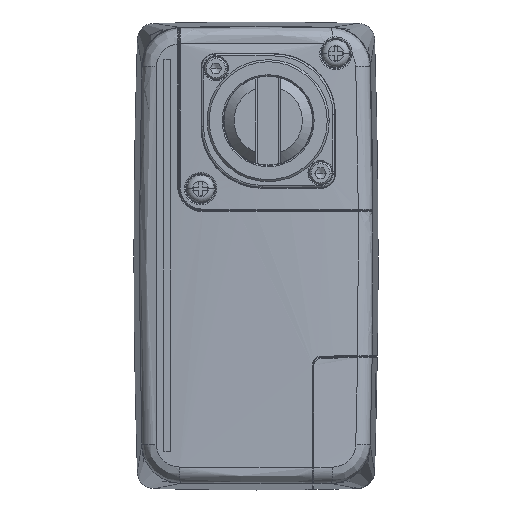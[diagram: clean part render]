
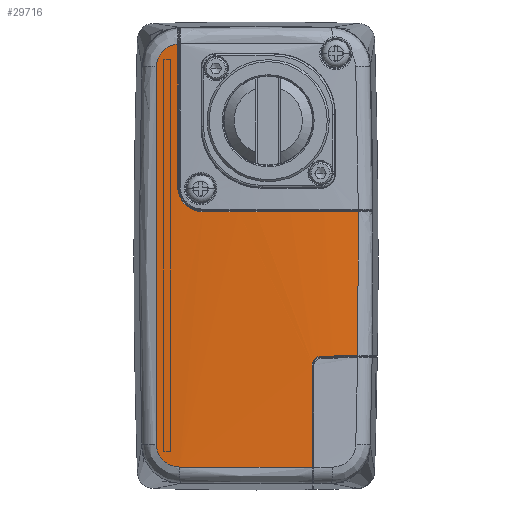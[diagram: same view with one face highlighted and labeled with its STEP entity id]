
A CAD part, top view. The second image highlights one B-rep face of the part: STEP entity #29716.
In plain terms, the highlighted cylindrical face has radius 226 mm (diameter 452 mm), a partial arc.
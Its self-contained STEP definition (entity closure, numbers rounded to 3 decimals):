
#7103=DIRECTION('',(0.,1.,0.));
#7104=VECTOR('',#7103,25.14);
#7105=CARTESIAN_POINT('',(10.812,-69.106,125.078));
#7106=LINE('',#7105,#7104);
#7685=CARTESIAN_POINT('',(21.99,-41.608,124.114));
#8989=CARTESIAN_POINT('',(10.812,-43.965,125.078));
#8990=CARTESIAN_POINT('',(10.817,-43.662,125.077));
#8991=CARTESIAN_POINT('',(10.924,-43.107,125.071));
#8992=CARTESIAN_POINT('',(11.449,-42.34,125.038));
#8993=CARTESIAN_POINT('',(12.109,-41.902,124.995));
#8994=CARTESIAN_POINT('',(12.669,-41.78,124.956));
#8995=CARTESIAN_POINT('',(12.976,-41.766,124.935));
#9002=CARTESIAN_POINT('',(-3.,-6.257,-100.5));
#9003=DIRECTION('',(0.,1.,0.));
#9004=DIRECTION('',(-0.058,0.,0.998));
#9005=AXIS2_PLACEMENT_3D('',#9002,#9003,#9004);
#9007=CARTESIAN_POINT('',(-3.,-6.257,-100.5));
#9008=DIRECTION('',(0.,1.,0.));
#9009=DIRECTION('',(0.,0.,1.));
#9010=AXIS2_PLACEMENT_3D('',#9007,#9008,#9009);
#9012=CARTESIAN_POINT('',(22.142,-6.252,124.097));
#9013=CARTESIAN_POINT('',(22.22,-18.039,124.088));
#9014=CARTESIAN_POINT('',(22.17,-29.822,124.094));
#9015=CARTESIAN_POINT('',(21.99,-41.608,124.114));
#9017=CARTESIAN_POINT('',(21.99,-41.608,124.114));
#9018=CARTESIAN_POINT('',(21.68,-41.62,124.149));
#9019=CARTESIAN_POINT('',(21.064,-41.639,124.216));
#9020=CARTESIAN_POINT('',(20.149,-41.626,124.312));
#9021=CARTESIAN_POINT('',(19.546,-41.645,124.373));
#9022=CARTESIAN_POINT('',(19.246,-41.656,124.402));
#9024=CARTESIAN_POINT('',(19.246,-41.656,124.402));
#9025=CARTESIAN_POINT('',(18.891,-41.671,124.438));
#9026=CARTESIAN_POINT('',(18.174,-41.694,124.507));
#9027=CARTESIAN_POINT('',(17.073,-41.681,124.608));
#9028=CARTESIAN_POINT('',(16.321,-41.698,124.673));
#9029=CARTESIAN_POINT('',(15.941,-41.707,124.705));
#9031=CARTESIAN_POINT('',(15.597,-41.72,124.734));
#9032=CARTESIAN_POINT('',(15.304,-41.731,124.758));
#9033=CARTESIAN_POINT('',(14.719,-41.749,124.805));
#9034=CARTESIAN_POINT('',(13.845,-41.737,124.872));
#9035=CARTESIAN_POINT('',(13.265,-41.755,124.914));
#9036=CARTESIAN_POINT('',(12.976,-41.766,124.935));
#9038=CARTESIAN_POINT('',(10.812,-69.106,125.078));
#9039=CARTESIAN_POINT('',(-0.031,-69.273,
125.742));
#9040=CARTESIAN_POINT('',(-10.928,-69.243,
125.622));
#9041=CARTESIAN_POINT('',(-21.753,-69.017,
124.721));
#9043=CARTESIAN_POINT('',(-21.753,-69.017,
124.721));
#9044=CARTESIAN_POINT('',(-22.482,-68.973,
124.66));
#9045=CARTESIAN_POINT('',(-23.801,-68.732,
124.543));
#9046=CARTESIAN_POINT('',(-25.298,-67.88,
124.399));
#9047=CARTESIAN_POINT('',(-26.523,-66.63,
124.273));
#9048=CARTESIAN_POINT('',(-27.282,-65.156,
124.192));
#9049=CARTESIAN_POINT('',(-27.485,-64.046,
124.17));
#9050=CARTESIAN_POINT('',(-27.509,-63.456,
124.167));
#9052=CARTESIAN_POINT('',(-27.509,-63.456,
124.167));
#9053=CARTESIAN_POINT('',(-28.4,-32.494,
124.07));
#9054=CARTESIAN_POINT('',(-28.4,-1.506,
124.07));
#9055=CARTESIAN_POINT('',(-27.509,29.456,124.167));
#9057=CARTESIAN_POINT('',(-27.509,29.456,124.167));
#9058=CARTESIAN_POINT('',(-27.48,30.047,124.17));
#9059=CARTESIAN_POINT('',(-27.283,31.149,124.192));
#9060=CARTESIAN_POINT('',(-26.559,32.561,124.269));
#9061=CARTESIAN_POINT('',(-25.448,33.75,124.383));
#9062=CARTESIAN_POINT('',(-24.083,34.597,124.516));
#9063=CARTESIAN_POINT('',(-22.912,34.898,124.622));
#9064=CARTESIAN_POINT('',(-22.269,34.986,124.677));
#9071=CARTESIAN_POINT('',(-16.012,-6.255,
125.125));
#9072=CARTESIAN_POINT('',(-16.52,-6.265,
125.096));
#9073=CARTESIAN_POINT('',(-17.528,-6.143,
125.035));
#9074=CARTESIAN_POINT('',(-19.174,-5.486,
124.922));
#9075=CARTESIAN_POINT('',(-20.467,-4.491,
124.825));
#9076=CARTESIAN_POINT('',(-21.491,-3.167,
124.743));
#9077=CARTESIAN_POINT('',(-22.123,-1.651,
124.69));
#9078=CARTESIAN_POINT('',(-22.266,-0.566,
124.677));
#9079=CARTESIAN_POINT('',(-22.269,0.,
124.677));
#9086=DIRECTION('',(0.,1.,0.));
#9087=VECTOR('',#9086,34.986);
#9088=CARTESIAN_POINT('',(-22.269,0.,
124.677));
#9089=LINE('',#9088,#9087);
#11562=CARTESIAN_POINT('',(15.597,-41.72,
124.734));
#11563=CARTESIAN_POINT('',(15.634,-41.717,
124.73));
#11564=CARTESIAN_POINT('',(15.709,-41.712,
124.724));
#11565=CARTESIAN_POINT('',(15.824,-41.715,
124.715));
#11566=CARTESIAN_POINT('',(15.902,-41.71,
124.708));
#11567=CARTESIAN_POINT('',(15.941,-41.707,
124.705));
#16462=VERTEX_POINT('',#7685);
#16463=CARTESIAN_POINT('',(22.142,-6.247,
124.097));
#16465=VERTEX_POINT('',#16463);
#16469=CARTESIAN_POINT('',(-3.,-6.257,
125.5));
#16470=VERTEX_POINT('',#16469);
#16471=CARTESIAN_POINT('',(-16.012,-6.257,
125.125));
#16472=VERTEX_POINT('',#16471);
#16475=VERTEX_POINT('',#9022);
#16476=VERTEX_POINT('',#9029);
#16477=VERTEX_POINT('',#9031);
#16478=VERTEX_POINT('',#9036);
#16479=VERTEX_POINT('',#8989);
#16480=CARTESIAN_POINT('',(10.812,-69.106,
125.078));
#16481=VERTEX_POINT('',#16480);
#16482=VERTEX_POINT('',#9041);
#16483=VERTEX_POINT('',#9050);
#16484=VERTEX_POINT('',#9055);
#16485=VERTEX_POINT('',#9064);
#16684=VERTEX_POINT('',#9079);
#29682=CARTESIAN_POINT('',(-3.,-71.298,-100.5));
#29683=DIRECTION('',(0.,1.,0.));
#29684=DIRECTION('',(1.,0.,0.));
#29685=AXIS2_PLACEMENT_3D('',#29682,#29683,#29684);
#29686=CYLINDRICAL_SURFACE('',#29685,226.);
#29688=ORIENTED_EDGE('',*,*,#29687,.T.);
#29690=ORIENTED_EDGE('',*,*,#29689,.T.);
#29691=ORIENTED_EDGE('',*,*,#27451,.T.);
#29693=ORIENTED_EDGE('',*,*,#29692,.T.);
#29695=ORIENTED_EDGE('',*,*,#29694,.T.);
#29697=ORIENTED_EDGE('',*,*,#29696,.F.);
#29699=ORIENTED_EDGE('',*,*,#29698,.T.);
#29700=ORIENTED_EDGE('',*,*,#29673,.F.);
#29701=ORIENTED_EDGE('',*,*,#26808,.F.);
#29703=ORIENTED_EDGE('',*,*,#29702,.T.);
#29705=ORIENTED_EDGE('',*,*,#29704,.T.);
#29707=ORIENTED_EDGE('',*,*,#29706,.T.);
#29709=ORIENTED_EDGE('',*,*,#29708,.T.);
#29711=ORIENTED_EDGE('',*,*,#29710,.F.);
#29713=ORIENTED_EDGE('',*,*,#29712,.F.);
#29714=EDGE_LOOP('',(#29688,#29690,#29691,#29693,#29695,#29697,#29699,#29700,
#29701,#29703,#29705,#29707,#29709,#29711,#29713));
#29715=FACE_OUTER_BOUND('',#29714,.F.);
#29716=ADVANCED_FACE('',(#29715),#29686,.T.);
#8996=B_SPLINE_CURVE_WITH_KNOTS('',3,(#8989,#8990,#8991,#8992,#8993,#8994,
#8995),.UNSPECIFIED.,.F.,.F.,(4,1,1,1,4),(0.,0.25,0.5,0.75,1.),
.UNSPECIFIED.);
#9006=CIRCLE('',#9005,226.);
#9011=CIRCLE('',#9010,226.);
#9016=B_SPLINE_CURVE_WITH_KNOTS('',3,(#9012,#9013,#9014,#9015),.UNSPECIFIED.,
.F.,.F.,(4,4),(0.,1.),.UNSPECIFIED.);
#9023=B_SPLINE_CURVE_WITH_KNOTS('',3,(#9017,#9018,#9019,#9020,#9021,#9022),
.UNSPECIFIED.,.F.,.F.,(4,1,1,4),(0.,0.333,0.667,1.),
.UNSPECIFIED.);
#9030=B_SPLINE_CURVE_WITH_KNOTS('',3,(#9024,#9025,#9026,#9027,#9028,#9029),
.UNSPECIFIED.,.F.,.F.,(4,1,1,4),(0.,0.333,0.667,1.),
.UNSPECIFIED.);
#9037=B_SPLINE_CURVE_WITH_KNOTS('',3,(#9031,#9032,#9033,#9034,#9035,#9036),
.UNSPECIFIED.,.F.,.F.,(4,1,1,4),(0.,0.333,0.667,1.),
.UNSPECIFIED.);
#9042=B_SPLINE_CURVE_WITH_KNOTS('',3,(#9038,#9039,#9040,#9041),.UNSPECIFIED.,
.F.,.F.,(4,4),(0.,1.),.UNSPECIFIED.);
#9051=B_SPLINE_CURVE_WITH_KNOTS('',3,(#9043,#9044,#9045,#9046,#9047,#9048,#9049,
#9050),.UNSPECIFIED.,.F.,.F.,(4,1,1,1,1,4),(0.,0.2,0.4,0.6,0.8,1.),
.UNSPECIFIED.);
#9056=B_SPLINE_CURVE_WITH_KNOTS('',3,(#9052,#9053,#9054,#9055),.UNSPECIFIED.,
.F.,.F.,(4,4),(0.,1.),.UNSPECIFIED.);
#9065=B_SPLINE_CURVE_WITH_KNOTS('',3,(#9057,#9058,#9059,#9060,#9061,#9062,#9063,
#9064),.UNSPECIFIED.,.F.,.F.,(4,1,1,1,1,4),(0.,0.2,0.4,0.6,0.8,1.),
.UNSPECIFIED.);
#9080=B_SPLINE_CURVE_WITH_KNOTS('',3,(#9071,#9072,#9073,#9074,#9075,#9076,#9077,
#9078,#9079),.UNSPECIFIED.,.F.,.F.,(4,1,1,1,1,1,4),(0.,0.167,
0.333,0.5,0.667,0.833,1.),
.UNSPECIFIED.);
#11568=B_SPLINE_CURVE_WITH_KNOTS('',3,(#11562,#11563,#11564,#11565,#11566,
#11567),.UNSPECIFIED.,.F.,.F.,(4,1,1,4),(0.,0.333,
0.667,1.),.UNSPECIFIED.);
#26808=EDGE_CURVE('',#16481,#16479,#7106,.T.);
#27451=EDGE_CURVE('',#16465,#16462,#9016,.T.);
#29673=EDGE_CURVE('',#16479,#16478,#8996,.T.);
#29687=EDGE_CURVE('',#16472,#16470,#9006,.T.);
#29689=EDGE_CURVE('',#16470,#16465,#9011,.T.);
#29692=EDGE_CURVE('',#16462,#16475,#9023,.T.);
#29694=EDGE_CURVE('',#16475,#16476,#9030,.T.);
#29696=EDGE_CURVE('',#16477,#16476,#11568,.T.);
#29698=EDGE_CURVE('',#16477,#16478,#9037,.T.);
#29702=EDGE_CURVE('',#16481,#16482,#9042,.T.);
#29704=EDGE_CURVE('',#16482,#16483,#9051,.T.);
#29706=EDGE_CURVE('',#16483,#16484,#9056,.T.);
#29708=EDGE_CURVE('',#16484,#16485,#9065,.T.);
#29710=EDGE_CURVE('',#16684,#16485,#9089,.T.);
#29712=EDGE_CURVE('',#16472,#16684,#9080,.T.);
